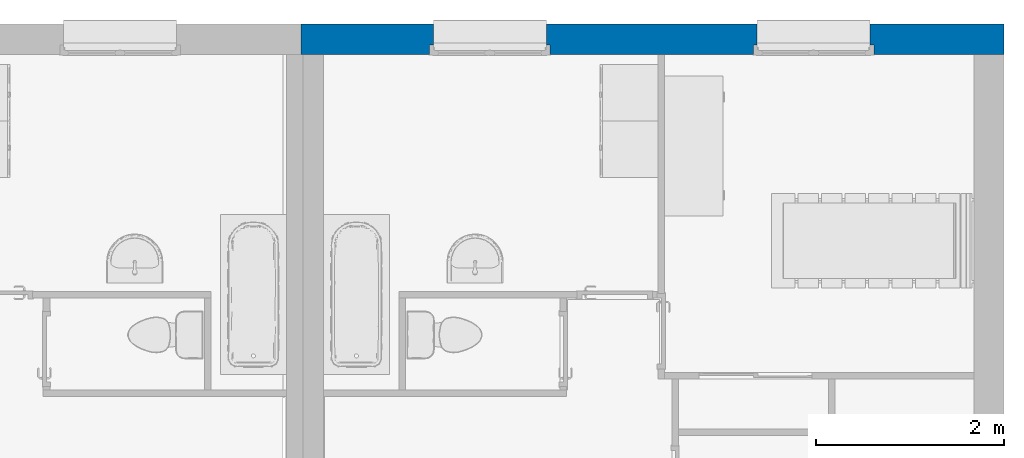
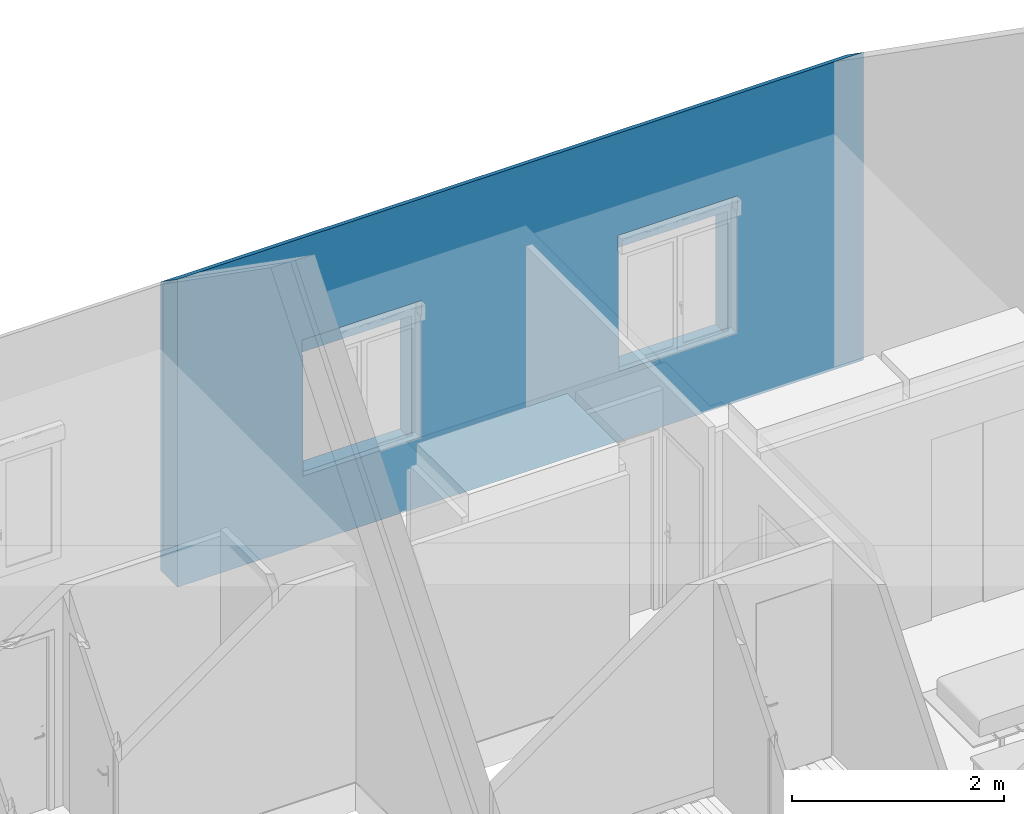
# One storey, part 40 of 50: 1 wall, 2 openings.
"""IFC2X3 building model written with IfcOpenShell, lengths in metres."""

from ifc_helpers import new_model, entity, si_unit, converted_unit, derived_unit, direction, frame, frame_2d, origin, place, context, subcontext, project, spatial, polyline, rectangle, extrude, clip, bounded_halfspace, faceted_brep, material, layer, layer_set, layer_usage, type_object, element, save


model = new_model("IFC2X3")

# Units and contexts
model_context = context("Model", 3, precision=1e-05, world=origin(), true_north=direction((6.12303176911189e-17, 1.0)))
context_of_model = context(None, 3, precision=1e-05, world=origin(), true_north=direction((6.12303176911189e-17, 1.0)))
body_context = subcontext(model_context, "Body", "Model", "MODEL_VIEW")
ifc_project = project(units=[si_unit("LENGTHUNIT", "METRE"), si_unit("AREAUNIT", "SQUARE_METRE"), si_unit("VOLUMEUNIT", "CUBIC_METRE"), converted_unit("PLANEANGLEUNIT", "DEGREE", entity("IfcRatioMeasure", 0.0174532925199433), si_unit("PLANEANGLEUNIT", "RADIAN"), dimensions=[0, 0, 0, 0, 0, 0, 0]), si_unit("MASSUNIT", "GRAM", prefix="KILO"), si_unit("TIMEUNIT", "SECOND"), si_unit("FREQUENCYUNIT", "HERTZ"), si_unit("THERMODYNAMICTEMPERATUREUNIT", "DEGREE_CELSIUS"), derived_unit("THERMALTRANSMITTANCEUNIT", [(si_unit("MASSUNIT", "GRAM", prefix="KILO"), 1), (si_unit("THERMODYNAMICTEMPERATUREUNIT", "KELVIN"), -1), (si_unit("TIMEUNIT", "SECOND"), -3)]), derived_unit("VOLUMETRICFLOWRATEUNIT", [(si_unit("LENGTHUNIT", "METRE"), 3), (si_unit("TIMEUNIT", "SECOND"), -1)]), si_unit("ELECTRICCURRENTUNIT", "AMPERE"), si_unit("ELECTRICVOLTAGEUNIT", "VOLT"), si_unit("POWERUNIT", "WATT"), si_unit("FORCEUNIT", "NEWTON", prefix="KILO"), si_unit("ILLUMINANCEUNIT", "LUX"), si_unit("LUMINOUSFLUXUNIT", "LUMEN"), si_unit("LUMINOUSINTENSITYUNIT", "CANDELA"), si_unit("PRESSUREUNIT", "PASCAL")], contexts=[model_context, context_of_model])

# Site, building, storey
site_placement = place(None, origin())
site = spatial("IfcSite", under=ifc_project, at=site_placement, Name="Surface", CompositionType="ELEMENT")
building_placement = place(site_placement, origin())
building = spatial("IfcBuilding", under=site, at=building_placement, CompositionType="ELEMENT")
storey_placement = place(building_placement, frame((0.0, 0.0, 2.82)))
storey = spatial("IfcBuildingStorey", under=building, at=storey_placement, Name="ETAGE", CompositionType="ELEMENT", Elevation=2.82)

# Wall, openings
ifc_material_1 = material(Name="Enduit blanc cassé2")
ifc_layer_1 = layer(ifc_material_1, 0.02)
ifc_material_2 = material(Name="Parpaing")
ifc_layer_2 = layer(ifc_material_2, 0.2)
ifc_material_3 = material(Name="Isolant")
ifc_layer_3 = layer(ifc_material_3, 0.1)
ifc_layer_set = layer_set([ifc_layer_1, ifc_layer_2, ifc_layer_3], Name="Mur de base:Ext. Parpaing 20 + Isolant 10 enduit blanc cassé")
ifc_layer_usage = layer_usage(ifc_layer_set, "AXIS2", "NEGATIVE", 0.16)
wall_type = type_object("IfcWallType", Name="Mur de base:Ext. Parpaing 20 + Isolant 10 enduit blanc cassé", PredefinedType="STANDARD", material=ifc_layer_set)
wall_placement = place(storey_placement, frame((83.6889023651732, 92.3075239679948, 0.0)))
wall = element("IfcWallStandardCase", 1, at=wall_placement, inside=storey, type_object=wall_type, material=ifc_layer_usage, Name="Mur de base:Ext. Parpaing 20 + Isolant 10 enduit blanc cassé", ObjectType="Mur de base:Ext. Parpaing 20 + Isolant 10 enduit blanc cassé", context=body_context, shape_type="Clipping", body=[
    clip(extrude(rectangle(XDim=7.46614635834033, YDim=0.319999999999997, at=frame_2d((3.73307317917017, 2.55351295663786e-15), x_axis=(-1.0, 0.0))), origin(), (0.0, 0.0, 1.0), 3.54406641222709), bounded_halfspace(frame((0.0, -0.159999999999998, 3.54406641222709), z_axis=(0.0, 0.573576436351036, 0.819152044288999), x_axis=(-1.0, 0.0, 0.0)), False, frame((0.0, -0.159999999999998, 3.54406641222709)), polyline([(0.0, 0.0), (0.017500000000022, 0.0), (0.0625000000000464, 0.0), (0.237500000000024, 0.0), (7.14614635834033, 0.0), (7.46614635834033, 0.0), (7.46614635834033, 0.319999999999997), (0.0, 0.319999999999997), (0.0, 0.0)]))),
])
opening_1_placement = place(wall_placement, frame((1.35394170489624, -0.499999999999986, 0.719999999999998)))
element("IfcOpeningElement", 2, at=opening_1_placement, cuts=wall, Name="Mur de base:Ext. Parpaing 20 + Isolant 10 enduit blanc cassé", ObjectType="Opening", context=body_context, shape_type="Brep", body=[
    faceted_brep([(1.25000000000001, 0.0, 1.43), (0.050000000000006, 0.0, 1.43), (0.050000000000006, 0.0, 0.0800000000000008), (1.25000000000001, 0.0, 0.0800000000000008), (1.25000000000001, 1.0, 1.43), (1.25000000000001, 1.0, 0.0800000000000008), (0.050000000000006, 1.0, 0.0800000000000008), (0.050000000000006, 1.0, 1.43), (1.24999999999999, 0.326999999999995, 1.43), (0.0499999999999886, 0.326999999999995, 1.43), (0.050000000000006, 0.326999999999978, 0.0800000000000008), (0.0100000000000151, 0.326999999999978, 0.0800000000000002), (0.0100000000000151, 0.439999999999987, 0.0800000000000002), (0.050000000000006, 0.439999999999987, 0.0800000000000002), (0.050000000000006, 0.405000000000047, 0.0800000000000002), (1.25000000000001, 0.405000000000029, 0.0800000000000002), (1.25000000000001, 0.439999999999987, 0.0800000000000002), (1.29, 0.439999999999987, 0.0800000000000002), (1.29, 0.326999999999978, 0.0800000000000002), (1.25000000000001, 0.326999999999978, 0.0800000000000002), (1.29, 0.326999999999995, 1.47), (0.0100000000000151, 0.326999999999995, 1.47), (0.00999999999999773, 0.440000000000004, 1.47), (0.0, 0.440000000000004, 1.47), (0.0, 0.440000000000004, 1.65), (1.3, 0.439999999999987, 1.65), (1.3, 0.440000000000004, 1.47), (1.29, 0.440000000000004, 1.47), (1.24999999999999, 0.439999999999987, 1.43), (0.0499999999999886, 0.439999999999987, 1.43), (0.0, 0.307, 1.65), (0.0, 0.307, 1.47), (1.3, 0.307, 1.65), (1.3, 0.307, 1.47), (0.050000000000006, 0.439999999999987, 0.0), (1.25000000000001, 0.439999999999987, 0.0), (1.24999999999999, 0.405000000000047, 0.0349999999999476), (0.050000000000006, 0.405000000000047, 0.0349999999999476), (0.050000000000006, 0.705000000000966, 0.0800000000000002), (1.25000000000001, 0.705000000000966, 0.0800000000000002), (1.24999999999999, 0.705000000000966, 0.0), (0.050000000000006, 0.705000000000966, 0.0)], [[[0, 1, 2, 3]], [[4, 5, 6, 7]], [[0, 8, 9, 1]], [[1, 9, 10, 2]], [[2, 10, 11, 12, 13, 14, 15, 16, 17, 18, 19, 3]], [[3, 19, 8, 0]], [[10, 9, 8, 19, 18, 20, 21, 11]], [[11, 21, 22, 12]], [[12, 22, 23, 24, 25, 26, 27, 17, 16, 28, 29, 13]], [[18, 17, 27, 20]], [[30, 24, 23, 31]], [[32, 33, 26, 25]], [[30, 32, 25, 24]], [[23, 22, 21, 20, 27, 26, 33, 31]], [[31, 33, 32, 30]], [[34, 35, 36, 37]], [[37, 36, 15, 14]], [[38, 39, 40, 41]], [[41, 40, 35, 34]], [[4, 28, 16, 15, 36, 35, 40, 39, 5]], [[5, 39, 38, 6]], [[6, 38, 41, 34, 37, 14, 13, 29, 7]], [[7, 29, 28, 4]]]),
])
opening_2_placement = place(wall_placement, frame((4.79307317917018, -0.500000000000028, 0.719999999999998)))
element("IfcOpeningElement", 3, at=opening_2_placement, cuts=wall, Name="Mur de base:Ext. Parpaing 20 + Isolant 10 enduit blanc cassé", ObjectType="Opening", context=body_context, shape_type="Brep", body=[
    faceted_brep([(1.25000000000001, 0.0, 1.43), (0.050000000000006, 0.0, 1.43), (0.050000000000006, 0.0, 0.0800000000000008), (1.25000000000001, 0.0, 0.0800000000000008), (1.25000000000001, 1.0, 1.43), (1.25000000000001, 1.0, 0.0800000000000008), (0.050000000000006, 1.0, 0.0800000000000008), (0.050000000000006, 1.0, 1.43), (1.24999999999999, 0.327000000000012, 1.43), (0.0499999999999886, 0.327000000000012, 1.43), (0.050000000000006, 0.326999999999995, 0.0800000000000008), (0.0100000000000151, 0.326999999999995, 0.0800000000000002), (0.0100000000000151, 0.440000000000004, 0.0800000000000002), (0.050000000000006, 0.440000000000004, 0.0800000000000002), (0.050000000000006, 0.405000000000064, 0.0800000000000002), (1.25000000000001, 0.405000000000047, 0.0800000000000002), (1.25000000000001, 0.440000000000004, 0.0800000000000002), (1.29, 0.440000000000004, 0.0800000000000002), (1.29, 0.326999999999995, 0.0800000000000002), (1.25000000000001, 0.326999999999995, 0.0800000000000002), (1.29, 0.327000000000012, 1.47), (0.0100000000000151, 0.327000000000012, 1.47), (0.00999999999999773, 0.440000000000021, 1.47), (0.0, 0.440000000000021, 1.47), (0.0, 0.440000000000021, 1.65), (1.3, 0.440000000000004, 1.65), (1.3, 0.440000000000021, 1.47), (1.29, 0.440000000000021, 1.47), (1.24999999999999, 0.440000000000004, 1.43), (0.0499999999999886, 0.440000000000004, 1.43), (0.0, 0.307000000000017, 1.65), (0.0, 0.307000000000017, 1.47), (1.3, 0.307000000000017, 1.65), (1.3, 0.307000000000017, 1.47), (0.050000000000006, 0.440000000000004, 0.0), (1.25000000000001, 0.440000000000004, 0.0), (1.24999999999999, 0.405000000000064, 0.0349999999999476), (0.050000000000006, 0.405000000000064, 0.0349999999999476), (0.050000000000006, 0.705000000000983, 0.0800000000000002), (1.25000000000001, 0.705000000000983, 0.0800000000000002), (1.24999999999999, 0.705000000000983, 0.0), (0.050000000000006, 0.705000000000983, 0.0)], [[[0, 1, 2, 3]], [[4, 5, 6, 7]], [[0, 8, 9, 1]], [[1, 9, 10, 2]], [[2, 10, 11, 12, 13, 14, 15, 16, 17, 18, 19, 3]], [[3, 19, 8, 0]], [[10, 9, 8, 19, 18, 20, 21, 11]], [[11, 21, 22, 12]], [[12, 22, 23, 24, 25, 26, 27, 17, 16, 28, 29, 13]], [[18, 17, 27, 20]], [[30, 24, 23, 31]], [[32, 33, 26, 25]], [[30, 32, 25, 24]], [[23, 22, 21, 20, 27, 26, 33, 31]], [[31, 33, 32, 30]], [[34, 35, 36, 37]], [[37, 36, 15, 14]], [[38, 39, 40, 41]], [[41, 40, 35, 34]], [[4, 28, 16, 15, 36, 35, 40, 39, 5]], [[5, 39, 38, 6]], [[6, 38, 41, 34, 37, 14, 13, 29, 7]], [[7, 29, 28, 4]]]),
])

save(model, "model.ifc")
